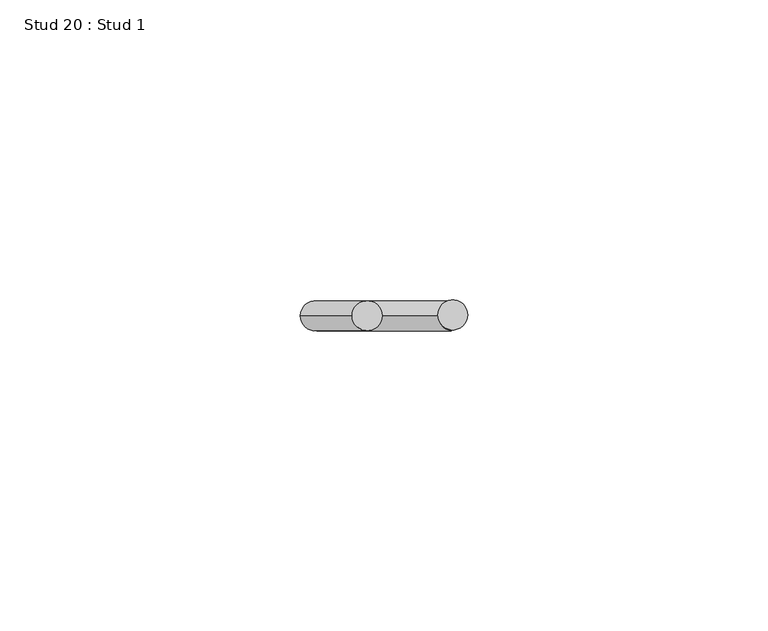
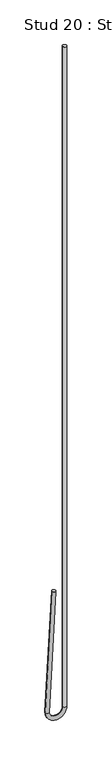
"""IFC4 building model written with IfcOpenShell, lengths in millimetres: proxy geometry, Stud 20 : Stud 1."""

from ifc_helpers import new_model, si_unit, point, frame, origin, place, context, project, spatial, circle_curve, ellipse_curve, trimmed, source, transform, mapped, element, save
from ifc_brep_helpers import plane_surface, cylinder_surface, revolved_surface, advanced_brep


def stud_20_stud_1_3f2360c5(model_context):
    return source(origin(), model_context, "Body", "AdvancedBrep", [
        advanced_brep(
        [(-10978.2326538, 886.5972731, 3640.800192), (-10973.2395061, 886.5972731, 3640.5385122), (-10986.8733201, 886.5972731, 3475.9264558), (-10981.8801725, 886.5972731, 3475.664776), (-10963.9714562, 886.5972731, 3475.7956159), (-10958.9714562, 886.5972731, 3475.7956159), (-10958.9714562, 886.5972731, 4390.1956159), (-10963.9714562, 886.5972731, 4390.1956159)],
        [
            (0, 1, circle_curve(frame((-10975.7360799, 886.5972731, 3640.6693521), z_axis=(0.05233595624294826, 0.0, 0.9986295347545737), x_axis=(0.9986295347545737, 0.0, -0.05233595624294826)), 2.5)),
            (1, 0, circle_curve(frame((-10975.7360799, 886.5972731, 3640.6693521), z_axis=(0.05233595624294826, 0.0, 0.9986295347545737), x_axis=(0.9986295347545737, 0.0, -0.05233595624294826)), 2.5)),
            (0, 2),
            (2, 3, circle_curve(frame((-10984.3767463, 886.5972731, 3475.7956159), z_axis=(0.05233595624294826, 0.0, 0.9986295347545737), x_axis=(0.9986295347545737, 0.0, -0.05233595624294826)), 2.5)),
            (3, 1),
            (3, 2, circle_curve(frame((-10984.3767463, 886.5972731, 3475.7956159), z_axis=(0.05233595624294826, 0.0, 0.9986295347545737), x_axis=(0.9986295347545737, 0.0, -0.05233595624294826)), 2.5)),
            (4, 3, circle_curve(frame((-10972.9241013, 886.5972731, 3475.7956159), z_axis=(0.0, 1.0, 0.0), x_axis=(-1.0, 0.0, 0.0)), 8.952645)),
            (2, 5, circle_curve(frame((-10972.9241013, 886.5972731, 3475.7956159), z_axis=(0.0, -1.0, 0.0), x_axis=(-1.0, 0.0, 0.0)), 13.952645)),
            (5, 4, circle_curve(frame((-10961.4714562, 886.5972731, 3475.7956159), z_axis=(0.0, 0.0, -1.0), x_axis=(-1.0, 0.0, 0.0)), 2.5)),
            (4, 5, circle_curve(frame((-10961.4714562, 886.5972731, 3475.7956159), z_axis=(0.0, 0.0, -1.0), x_axis=(-1.0, 0.0, 0.0)), 2.5)),
            (6, 7, circle_curve(frame((-10961.4714562, 886.5972731, 4390.1956159), z_axis=(0.0, 0.0, 1.0), x_axis=(-1.0, 0.0, 0.0)), 2.5)),
            (7, 6, circle_curve(frame((-10961.4714562, 886.5972731, 4390.1956159), z_axis=(0.0, 0.0, 1.0), x_axis=(-1.0, 0.0, 0.0)), 2.5)),
            (5, 6),
            (7, 4),
        ],
        [
            plane_surface(frame((-10975.7360799, 1480.3222731, 3640.6693521), z_axis=(0.05233595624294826, 0.0, 0.9986295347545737), x_axis=(0.0, -1.0, 0.0))),
            cylinder_surface(frame((-10975.7360799, 886.5972731, 3640.6693521), z_axis=(0.05233595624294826, 0.0, 0.9986295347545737), x_axis=(0.9986295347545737, 0.0, -0.05233595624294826)), 2.5),
            revolved_surface(trimmed(ellipse_curve(frame((-10984.3767463, 886.5972731, 3475.7956159), z_axis=(0.0, 0.0, 1.0), x_axis=(1.0, 0.0, 0.0)), 2.5, 2.5), [point((-10986.8767463, 886.5972731, 3475.7956159))], [point((-10981.8767463, 886.5972731, 3475.7956159))], True, "CARTESIAN"), (-10972.9241013, 1480.3222731, 3475.7956159), (0.0, -1.0, 0.0)),
            revolved_surface(trimmed(ellipse_curve(frame((-10984.3767463, 886.5972731, 3475.7956159), z_axis=(0.0, 0.0, 1.0), x_axis=(1.0, 0.0, 0.0)), 2.5, 2.5), [point((-10981.8767463, 886.5972731, 3475.7956159))], [point((-10986.8767463, 886.5972731, 3475.7956159))], True, "CARTESIAN"), (-10972.9241013, 1480.3222731, 3475.7956159), (0.0, -1.0, 0.0)),
            plane_surface(frame((-10961.4714562, 1480.3222731, 4390.1956159), z_axis=(0.0, 0.0, 1.0), x_axis=(0.0, -1.0, 0.0))),
            cylinder_surface(frame((-10961.4714562, 886.5972731, 3475.7956159), z_axis=(0.0, 0.0, -1.0), x_axis=(-1.0, 0.0, 0.0)), 2.5),
        ],
        [
            (0, [[1, 2]]),
            (1, [[-1, 3, 4, 5]]),
            (1, [[-2, -5, 6, -3]]),
            (2, [[7, -4, 8, 9]]),
            (3, [[-8, -6, -7, 10]]),
            (4, [[11, 12]]),
            (5, [[-9, 13, -12, 14]]),
            (5, [[-10, -14, -11, -13]]),
        ],
    ),
    ])


if __name__ == "__main__":
    model = new_model("IFC4")
    model_context = context("Model", 3, world=origin())
    ifc_project = project(units=[si_unit("LENGTHUNIT", "METRE", prefix="MILLI")], contexts=[model_context])
    site = spatial("IfcSite", under=ifc_project)
    building = spatial("IfcBuilding", under=site)
    placement = place(None, origin())
    stud_20_stud_1_shape = stud_20_stud_1_3f2360c5(model_context)
    element("IfcBuildingElementProxy", 1, Name="Stud 20 : Stud 1", ObjectType="Stud 20 : Stud 1", at=placement, inside=building, context=model_context, shape_type="MappedRepresentation", body=[
        mapped(stud_20_stud_1_shape, transform((0.0, 0.0, 0.0), x_axis=(1.0, 0.0, 0.0), y_axis=(0.0, 1.0, 0.0), z_axis=(0.0, 0.0, 1.0))),
    ])
    save(model, "model.ifc")
